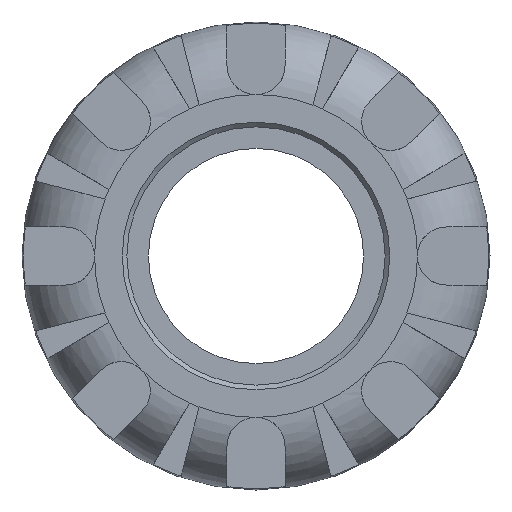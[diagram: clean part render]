
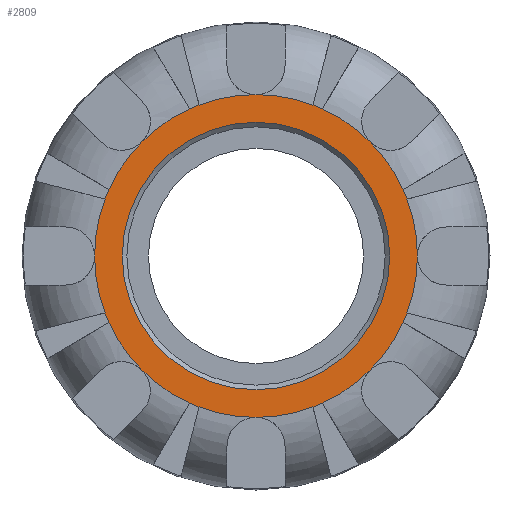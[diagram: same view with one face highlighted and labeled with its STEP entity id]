
A CAD part, left-side view. The second image highlights one B-rep face of the part: STEP entity #2809.
In plain terms, the highlighted planar face has unit normal (-1, 0, 0).
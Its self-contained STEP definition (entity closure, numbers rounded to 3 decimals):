
#25=FACE_BOUND('',#490,.T.);
#114=CIRCLE('',#3048,16.58);
#115=CIRCLE('',#3050,20.);
#116=CIRCLE('',#3051,20.);
#117=CIRCLE('',#3052,20.);
#118=CIRCLE('',#3053,20.);
#119=CIRCLE('',#3054,20.);
#120=CIRCLE('',#3055,20.);
#121=CIRCLE('',#3056,20.);
#122=CIRCLE('',#3057,20.);
#123=CIRCLE('',#3058,20.);
#124=CIRCLE('',#3059,20.);
#125=CIRCLE('',#3060,20.);
#126=CIRCLE('',#3061,20.);
#127=CIRCLE('',#3062,20.);
#128=CIRCLE('',#3063,20.);
#129=CIRCLE('',#3064,20.);
#130=CIRCLE('',#3065,20.);
#131=CIRCLE('',#3066,20.);
#132=CIRCLE('',#3067,20.);
#133=CIRCLE('',#3068,20.);
#134=CIRCLE('',#3069,20.);
#135=CIRCLE('',#3070,20.);
#136=CIRCLE('',#3071,20.);
#137=CIRCLE('',#3072,20.);
#138=CIRCLE('',#3073,20.);
#320=FACE_OUTER_BOUND('',#489,.T.);
#489=EDGE_LOOP('',(#2048,#2049,#2050,#2051,#2052,#2053,#2054,#2055,#2056,
#2057,#2058,#2059,#2060,#2061,#2062,#2063,#2064,#2065,#2066,#2067,#2068,
#2069,#2070,#2071));
#490=EDGE_LOOP('',(#2072));
#1115=VERTEX_POINT('',#5241);
#1116=VERTEX_POINT('',#5244);
#1117=VERTEX_POINT('',#5245);
#1118=VERTEX_POINT('',#5247);
#1119=VERTEX_POINT('',#5249);
#1120=VERTEX_POINT('',#5251);
#1121=VERTEX_POINT('',#5253);
#1122=VERTEX_POINT('',#5255);
#1123=VERTEX_POINT('',#5257);
#1124=VERTEX_POINT('',#5259);
#1125=VERTEX_POINT('',#5261);
#1126=VERTEX_POINT('',#5263);
#1127=VERTEX_POINT('',#5265);
#1128=VERTEX_POINT('',#5267);
#1129=VERTEX_POINT('',#5269);
#1130=VERTEX_POINT('',#5271);
#1131=VERTEX_POINT('',#5273);
#1132=VERTEX_POINT('',#5275);
#1133=VERTEX_POINT('',#5277);
#1134=VERTEX_POINT('',#5279);
#1135=VERTEX_POINT('',#5281);
#1136=VERTEX_POINT('',#5283);
#1137=VERTEX_POINT('',#5285);
#1138=VERTEX_POINT('',#5287);
#1139=VERTEX_POINT('',#5289);
#1449=EDGE_CURVE('',#1115,#1115,#114,.T.);
#1450=EDGE_CURVE('',#1116,#1117,#115,.T.);
#1451=EDGE_CURVE('',#1118,#1116,#116,.T.);
#1452=EDGE_CURVE('',#1119,#1118,#117,.T.);
#1453=EDGE_CURVE('',#1120,#1119,#118,.T.);
#1454=EDGE_CURVE('',#1121,#1120,#119,.T.);
#1455=EDGE_CURVE('',#1122,#1121,#120,.T.);
#1456=EDGE_CURVE('',#1123,#1122,#121,.T.);
#1457=EDGE_CURVE('',#1124,#1123,#122,.T.);
#1458=EDGE_CURVE('',#1125,#1124,#123,.T.);
#1459=EDGE_CURVE('',#1126,#1125,#124,.T.);
#1460=EDGE_CURVE('',#1127,#1126,#125,.T.);
#1461=EDGE_CURVE('',#1128,#1127,#126,.T.);
#1462=EDGE_CURVE('',#1129,#1128,#127,.T.);
#1463=EDGE_CURVE('',#1130,#1129,#128,.T.);
#1464=EDGE_CURVE('',#1131,#1130,#129,.T.);
#1465=EDGE_CURVE('',#1132,#1131,#130,.T.);
#1466=EDGE_CURVE('',#1133,#1132,#131,.T.);
#1467=EDGE_CURVE('',#1134,#1133,#132,.T.);
#1468=EDGE_CURVE('',#1135,#1134,#133,.T.);
#1469=EDGE_CURVE('',#1136,#1135,#134,.T.);
#1470=EDGE_CURVE('',#1137,#1136,#135,.T.);
#1471=EDGE_CURVE('',#1138,#1137,#136,.T.);
#1472=EDGE_CURVE('',#1139,#1138,#137,.T.);
#1473=EDGE_CURVE('',#1117,#1139,#138,.T.);
#2048=ORIENTED_EDGE('',*,*,#1450,.F.);
#2049=ORIENTED_EDGE('',*,*,#1451,.F.);
#2050=ORIENTED_EDGE('',*,*,#1452,.F.);
#2051=ORIENTED_EDGE('',*,*,#1453,.F.);
#2052=ORIENTED_EDGE('',*,*,#1454,.F.);
#2053=ORIENTED_EDGE('',*,*,#1455,.F.);
#2054=ORIENTED_EDGE('',*,*,#1456,.F.);
#2055=ORIENTED_EDGE('',*,*,#1457,.F.);
#2056=ORIENTED_EDGE('',*,*,#1458,.F.);
#2057=ORIENTED_EDGE('',*,*,#1459,.F.);
#2058=ORIENTED_EDGE('',*,*,#1460,.F.);
#2059=ORIENTED_EDGE('',*,*,#1461,.F.);
#2060=ORIENTED_EDGE('',*,*,#1462,.F.);
#2061=ORIENTED_EDGE('',*,*,#1463,.F.);
#2062=ORIENTED_EDGE('',*,*,#1464,.F.);
#2063=ORIENTED_EDGE('',*,*,#1465,.F.);
#2064=ORIENTED_EDGE('',*,*,#1466,.F.);
#2065=ORIENTED_EDGE('',*,*,#1467,.F.);
#2066=ORIENTED_EDGE('',*,*,#1468,.F.);
#2067=ORIENTED_EDGE('',*,*,#1469,.F.);
#2068=ORIENTED_EDGE('',*,*,#1470,.F.);
#2069=ORIENTED_EDGE('',*,*,#1471,.F.);
#2070=ORIENTED_EDGE('',*,*,#1472,.F.);
#2071=ORIENTED_EDGE('',*,*,#1473,.F.);
#2072=ORIENTED_EDGE('',*,*,#1449,.F.);
#2507=PLANE('',#3049);
#2809=ADVANCED_FACE('',(#320,#25),#2507,.T.);
#3048=AXIS2_PLACEMENT_3D('',#5242,#3591,#3592);
#3049=AXIS2_PLACEMENT_3D('',#5243,#3593,#3594);
#3050=AXIS2_PLACEMENT_3D('',#5246,#3595,#3596);
#3051=AXIS2_PLACEMENT_3D('',#5248,#3597,#3598);
#3052=AXIS2_PLACEMENT_3D('',#5250,#3599,#3600);
#3053=AXIS2_PLACEMENT_3D('',#5252,#3601,#3602);
#3054=AXIS2_PLACEMENT_3D('',#5254,#3603,#3604);
#3055=AXIS2_PLACEMENT_3D('',#5256,#3605,#3606);
#3056=AXIS2_PLACEMENT_3D('',#5258,#3607,#3608);
#3057=AXIS2_PLACEMENT_3D('',#5260,#3609,#3610);
#3058=AXIS2_PLACEMENT_3D('',#5262,#3611,#3612);
#3059=AXIS2_PLACEMENT_3D('',#5264,#3613,#3614);
#3060=AXIS2_PLACEMENT_3D('',#5266,#3615,#3616);
#3061=AXIS2_PLACEMENT_3D('',#5268,#3617,#3618);
#3062=AXIS2_PLACEMENT_3D('',#5270,#3619,#3620);
#3063=AXIS2_PLACEMENT_3D('',#5272,#3621,#3622);
#3064=AXIS2_PLACEMENT_3D('',#5274,#3623,#3624);
#3065=AXIS2_PLACEMENT_3D('',#5276,#3625,#3626);
#3066=AXIS2_PLACEMENT_3D('',#5278,#3627,#3628);
#3067=AXIS2_PLACEMENT_3D('',#5280,#3629,#3630);
#3068=AXIS2_PLACEMENT_3D('',#5282,#3631,#3632);
#3069=AXIS2_PLACEMENT_3D('',#5284,#3633,#3634);
#3070=AXIS2_PLACEMENT_3D('',#5286,#3635,#3636);
#3071=AXIS2_PLACEMENT_3D('',#5288,#3637,#3638);
#3072=AXIS2_PLACEMENT_3D('',#5290,#3639,#3640);
#3073=AXIS2_PLACEMENT_3D('',#5291,#3641,#3642);
#3591=DIRECTION('center_axis',(-1.,0.,0.));
#3592=DIRECTION('ref_axis',(0.,-1.,0.));
#3593=DIRECTION('center_axis',(-1.,0.,0.));
#3594=DIRECTION('ref_axis',(0.,0.,1.));
#3595=DIRECTION('center_axis',(1.,0.,0.));
#3596=DIRECTION('ref_axis',(0.,0.,-1.));
#3597=DIRECTION('center_axis',(1.,0.,0.));
#3598=DIRECTION('ref_axis',(0.,0.,-1.));
#3599=DIRECTION('center_axis',(1.,0.,0.));
#3600=DIRECTION('ref_axis',(0.,0.,-1.));
#3601=DIRECTION('center_axis',(1.,0.,0.));
#3602=DIRECTION('ref_axis',(0.,0.,-1.));
#3603=DIRECTION('center_axis',(1.,0.,0.));
#3604=DIRECTION('ref_axis',(0.,0.,-1.));
#3605=DIRECTION('center_axis',(1.,0.,0.));
#3606=DIRECTION('ref_axis',(0.,0.,-1.));
#3607=DIRECTION('center_axis',(1.,0.,0.));
#3608=DIRECTION('ref_axis',(0.,0.,-1.));
#3609=DIRECTION('center_axis',(1.,0.,0.));
#3610=DIRECTION('ref_axis',(0.,0.,-1.));
#3611=DIRECTION('center_axis',(1.,0.,0.));
#3612=DIRECTION('ref_axis',(0.,0.,-1.));
#3613=DIRECTION('center_axis',(1.,0.,0.));
#3614=DIRECTION('ref_axis',(0.,0.,-1.));
#3615=DIRECTION('center_axis',(1.,0.,0.));
#3616=DIRECTION('ref_axis',(0.,0.,-1.));
#3617=DIRECTION('center_axis',(1.,0.,0.));
#3618=DIRECTION('ref_axis',(0.,0.,-1.));
#3619=DIRECTION('center_axis',(1.,0.,0.));
#3620=DIRECTION('ref_axis',(0.,0.,-1.));
#3621=DIRECTION('center_axis',(1.,0.,0.));
#3622=DIRECTION('ref_axis',(0.,0.,-1.));
#3623=DIRECTION('center_axis',(1.,0.,0.));
#3624=DIRECTION('ref_axis',(0.,0.,-1.));
#3625=DIRECTION('center_axis',(1.,0.,0.));
#3626=DIRECTION('ref_axis',(0.,0.,-1.));
#3627=DIRECTION('center_axis',(1.,0.,0.));
#3628=DIRECTION('ref_axis',(0.,0.,-1.));
#3629=DIRECTION('center_axis',(1.,0.,0.));
#3630=DIRECTION('ref_axis',(0.,0.,-1.));
#3631=DIRECTION('center_axis',(1.,0.,0.));
#3632=DIRECTION('ref_axis',(0.,0.,-1.));
#3633=DIRECTION('center_axis',(1.,0.,0.));
#3634=DIRECTION('ref_axis',(0.,0.,-1.));
#3635=DIRECTION('center_axis',(1.,0.,0.));
#3636=DIRECTION('ref_axis',(0.,0.,-1.));
#3637=DIRECTION('center_axis',(1.,0.,0.));
#3638=DIRECTION('ref_axis',(0.,0.,-1.));
#3639=DIRECTION('center_axis',(1.,0.,0.));
#3640=DIRECTION('ref_axis',(0.,0.,-1.));
#3641=DIRECTION('center_axis',(1.,0.,0.));
#3642=DIRECTION('ref_axis',(0.,0.,-1.));
#5241=CARTESIAN_POINT('',(-55.,16.58,0.));
#5242=CARTESIAN_POINT('Origin',(-55.,0.,0.));
#5243=CARTESIAN_POINT('Origin',(-55.,20.,0.));
#5244=CARTESIAN_POINT('',(-55.,20.,0.));
#5245=CARTESIAN_POINT('',(-55.,18.713,7.058));
#5246=CARTESIAN_POINT('Origin',(-55.,0.,0.));
#5247=CARTESIAN_POINT('',(-55.,18.713,-7.058));
#5248=CARTESIAN_POINT('Origin',(-55.,0.,0.));
#5249=CARTESIAN_POINT('',(-55.,18.223,-8.241));
#5250=CARTESIAN_POINT('Origin',(-55.,0.,0.));
#5251=CARTESIAN_POINT('',(-55.,14.142,-14.142));
#5252=CARTESIAN_POINT('Origin',(-55.,0.,0.));
#5253=CARTESIAN_POINT('',(-55.,8.241,-18.223));
#5254=CARTESIAN_POINT('Origin',(-55.,0.,0.));
#5255=CARTESIAN_POINT('',(-55.,7.058,-18.713));
#5256=CARTESIAN_POINT('Origin',(-55.,0.,0.));
#5257=CARTESIAN_POINT('',(-55.,0.,-20.));
#5258=CARTESIAN_POINT('Origin',(-55.,0.,0.));
#5259=CARTESIAN_POINT('',(-55.,-7.058,-18.713));
#5260=CARTESIAN_POINT('Origin',(-55.,0.,0.));
#5261=CARTESIAN_POINT('',(-55.,-8.241,-18.223));
#5262=CARTESIAN_POINT('Origin',(-55.,0.,0.));
#5263=CARTESIAN_POINT('',(-55.,-14.142,-14.142));
#5264=CARTESIAN_POINT('Origin',(-55.,0.,0.));
#5265=CARTESIAN_POINT('',(-55.,-18.223,-8.241));
#5266=CARTESIAN_POINT('Origin',(-55.,0.,0.));
#5267=CARTESIAN_POINT('',(-55.,-18.713,-7.058));
#5268=CARTESIAN_POINT('Origin',(-55.,0.,0.));
#5269=CARTESIAN_POINT('',(-55.,-20.,0.));
#5270=CARTESIAN_POINT('Origin',(-55.,0.,0.));
#5271=CARTESIAN_POINT('',(-55.,-18.713,7.058));
#5272=CARTESIAN_POINT('Origin',(-55.,0.,0.));
#5273=CARTESIAN_POINT('',(-55.,-18.223,8.241));
#5274=CARTESIAN_POINT('Origin',(-55.,0.,0.));
#5275=CARTESIAN_POINT('',(-55.,-14.142,14.142));
#5276=CARTESIAN_POINT('Origin',(-55.,0.,0.));
#5277=CARTESIAN_POINT('',(-55.,-8.241,18.223));
#5278=CARTESIAN_POINT('Origin',(-55.,0.,0.));
#5279=CARTESIAN_POINT('',(-55.,-7.058,18.713));
#5280=CARTESIAN_POINT('Origin',(-55.,0.,0.));
#5281=CARTESIAN_POINT('',(-55.,0.,20.));
#5282=CARTESIAN_POINT('Origin',(-55.,0.,0.));
#5283=CARTESIAN_POINT('',(-55.,7.058,18.713));
#5284=CARTESIAN_POINT('Origin',(-55.,0.,0.));
#5285=CARTESIAN_POINT('',(-55.,8.241,18.223));
#5286=CARTESIAN_POINT('Origin',(-55.,0.,0.));
#5287=CARTESIAN_POINT('',(-55.,14.142,14.142));
#5288=CARTESIAN_POINT('Origin',(-55.,0.,0.));
#5289=CARTESIAN_POINT('',(-55.,18.223,8.241));
#5290=CARTESIAN_POINT('Origin',(-55.,0.,0.));
#5291=CARTESIAN_POINT('Origin',(-55.,0.,0.));
